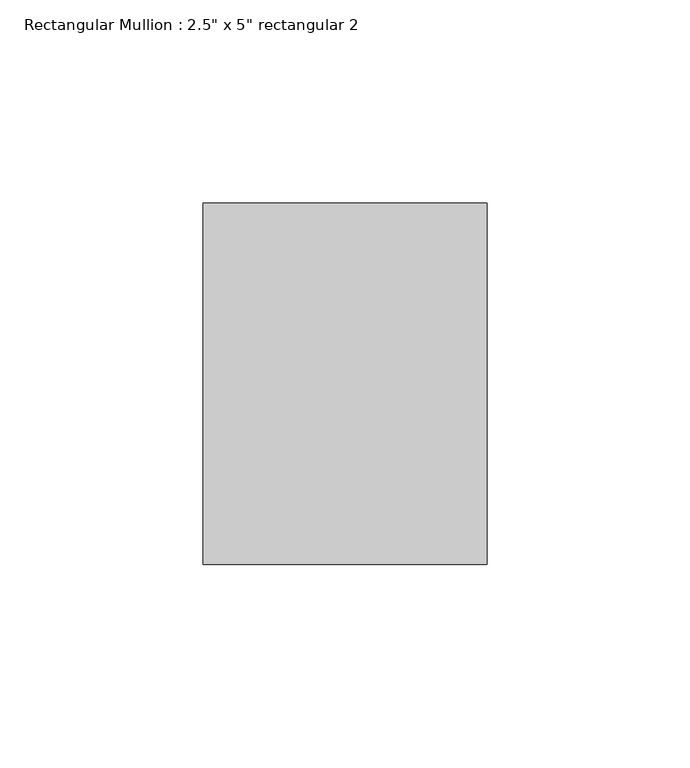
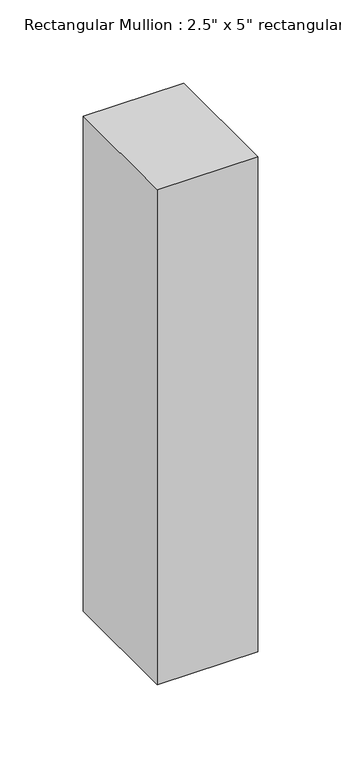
"""IFC4 building model written with IfcOpenShell, lengths in millimetres: member geometry."""

from ifc_helpers import new_model, si_unit, frame, origin, place, context, project, spatial, polyline, outline, extrude, source, transform, mapped, element, save


def member_6078e5ce(model_context):
    return source(origin(), model_context, "Body", "SweptSolid", [
        extrude(outline(polyline([(0.0, 44.45), (0.0, -44.45), (-69.85, -44.45), (-69.85, 44.45), (0.0, 44.45)])), frame((0.0, 0.0, -363.5715561), z_axis=(0.0, 0.0, 1.0), x_axis=(1.0, 0.0, 0.0)), (0.0, 0.0, 1.0), 363.5715561),
    ])


if __name__ == "__main__":
    model = new_model("IFC4")
    model_context = context("Model", 3, world=origin())
    ifc_project = project(units=[si_unit("LENGTHUNIT", "METRE", prefix="MILLI")], contexts=[model_context])
    site = spatial("IfcSite", under=ifc_project)
    building = spatial("IfcBuilding", under=site)
    placement = place(None, origin())
    member_shape = member_6078e5ce(model_context)
    element("IfcMember", 1, ObjectType="Rectangular Mullion : 2.5\" x 5\" rectangular 2", at=placement, inside=building, context=model_context, shape_type="MappedRepresentation", body=[
        mapped(member_shape, transform((0.0, 0.0, 0.0), x_axis=(1.0, 0.0, 0.0), y_axis=(0.0, 1.0, 0.0), z_axis=(0.0, 0.0, 1.0))),
    ])
    save(model, "model.ifc")
